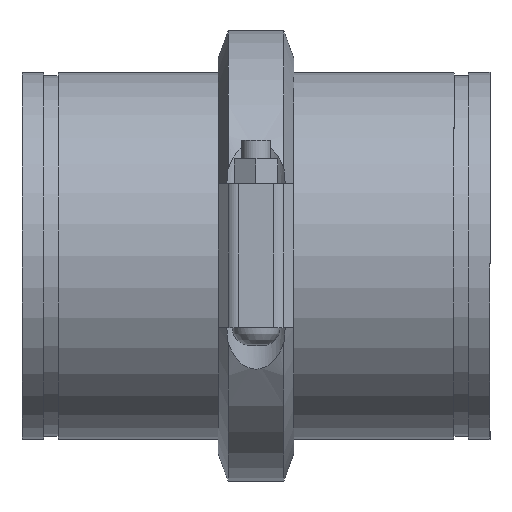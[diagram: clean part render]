
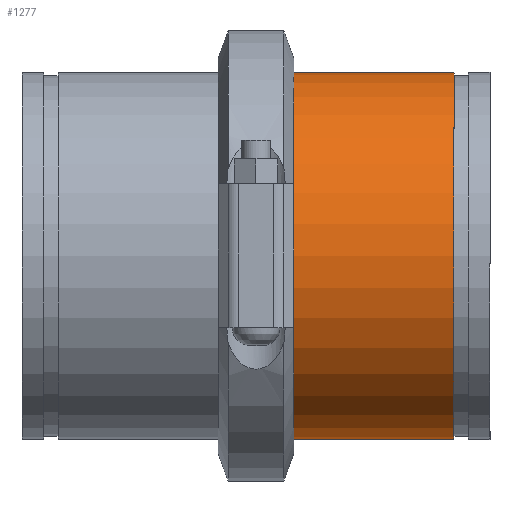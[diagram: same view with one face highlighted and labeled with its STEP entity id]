
A CAD part, top view. The second image highlights one B-rep face of the part: STEP entity #1277.
In plain terms, the highlighted cylindrical face has radius 161.925 mm (diameter 323.85 mm), a full revolution.
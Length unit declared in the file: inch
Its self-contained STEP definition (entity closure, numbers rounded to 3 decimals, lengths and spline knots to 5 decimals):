
#60=LINE('',#2012,#143);
#143=VECTOR('',#1641,6.375);
#226=CYLINDRICAL_SURFACE('',#1458,6.375);
#275=FACE_OUTER_BOUND('',#352,.T.);
#352=EDGE_LOOP('',(#837,#838,#839,#840,#841,#842));
#448=CIRCLE('',#1456,6.375);
#449=CIRCLE('',#1457,6.375);
#450=CIRCLE('',#1459,6.375);
#451=CIRCLE('',#1460,6.375);
#520=VERTEX_POINT('',#2003);
#521=VERTEX_POINT('',#2004);
#522=VERTEX_POINT('',#2008);
#523=VERTEX_POINT('',#2009);
#645=EDGE_CURVE('',#520,#521,#448,.T.);
#646=EDGE_CURVE('',#521,#520,#449,.T.);
#647=EDGE_CURVE('',#522,#523,#450,.T.);
#648=EDGE_CURVE('',#523,#522,#451,.T.);
#649=EDGE_CURVE('',#523,#521,#60,.T.);
#837=ORIENTED_EDGE('',*,*,#647,.F.);
#838=ORIENTED_EDGE('',*,*,#648,.F.);
#839=ORIENTED_EDGE('',*,*,#649,.T.);
#840=ORIENTED_EDGE('',*,*,#646,.T.);
#841=ORIENTED_EDGE('',*,*,#645,.T.);
#842=ORIENTED_EDGE('',*,*,#649,.F.);
#1277=ADVANCED_FACE('',(#275),#226,.T.);
#1456=AXIS2_PLACEMENT_3D('',#2005,#1631,#1632);
#1457=AXIS2_PLACEMENT_3D('',#2006,#1633,#1634);
#1458=AXIS2_PLACEMENT_3D('',#2007,#1635,#1636);
#1459=AXIS2_PLACEMENT_3D('',#2010,#1637,#1638);
#1460=AXIS2_PLACEMENT_3D('',#2011,#1639,#1640);
#1631=DIRECTION('center_axis',(-1.,0.,0.));
#1632=DIRECTION('ref_axis',(0.,0.,1.));
#1633=DIRECTION('center_axis',(-1.,0.,0.));
#1634=DIRECTION('ref_axis',(0.,0.,1.));
#1635=DIRECTION('center_axis',(-1.,0.,0.));
#1636=DIRECTION('ref_axis',(0.,1.,0.));
#1637=DIRECTION('center_axis',(-1.,0.,0.));
#1638=DIRECTION('ref_axis',(0.,0.,1.));
#1639=DIRECTION('center_axis',(-1.,0.,0.));
#1640=DIRECTION('ref_axis',(0.,0.,1.));
#1641=DIRECTION('',(1.,0.,0.));
#2003=CARTESIAN_POINT('',(2.78,6.375,0.));
#2004=CARTESIAN_POINT('',(2.78,-6.375,0.));
#2005=CARTESIAN_POINT('Origin',(2.78,0.,0.));
#2006=CARTESIAN_POINT('Origin',(2.78,0.,0.));
#2007=CARTESIAN_POINT('Origin',(0.,0.,
0.));
#2008=CARTESIAN_POINT('',(-2.78,6.375,0.));
#2009=CARTESIAN_POINT('',(-2.78,-6.375,0.));
#2010=CARTESIAN_POINT('Origin',(-2.78,0.,0.));
#2011=CARTESIAN_POINT('Origin',(-2.78,0.,0.));
#2012=CARTESIAN_POINT('',(0.,-6.375,0.));
